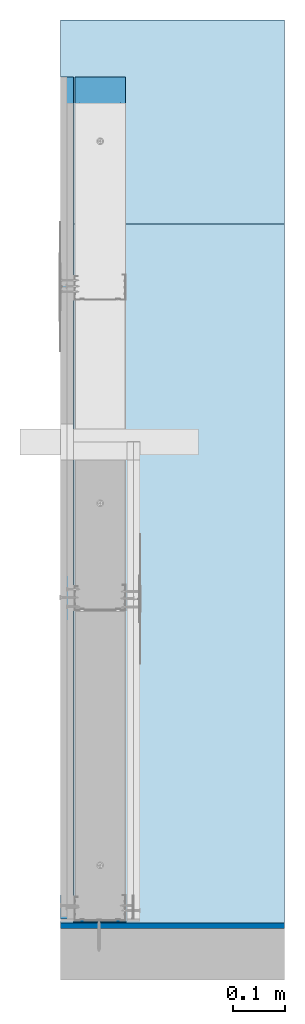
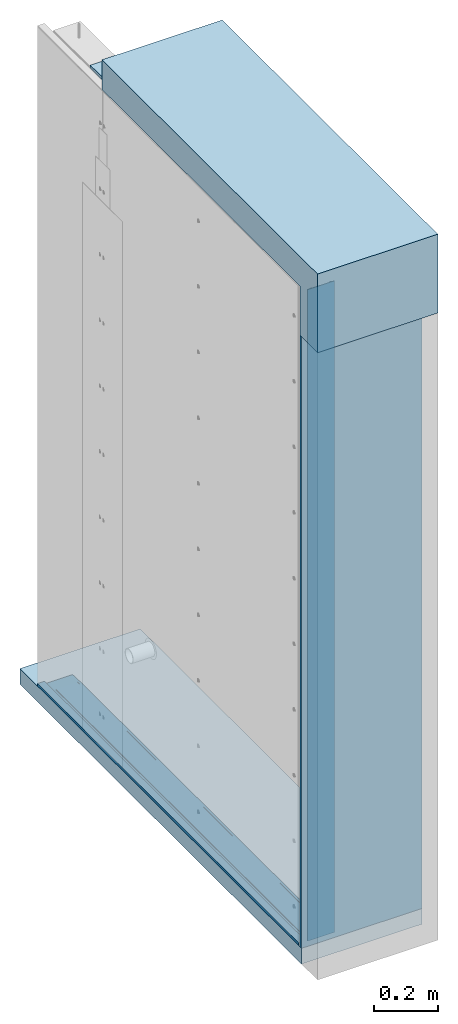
# One storey, part 1 of 92: 4 walls, 3 slabs.
"""IFC2X3 building model written with IfcOpenShell, lengths in millimetres."""

from ifc_helpers import new_model, si_unit, frame, origin_with_axes, place, context, subcontext, project, spatial, faceted_brep, material, type_object, element, save


model = new_model("IFC2X3")

# Units and contexts
model_context = context("Model", 3, world=origin_with_axes())
body_context = subcontext(model_context, "Body", "Model", "MODEL_VIEW")
ifc_project = project(units=[si_unit("LENGTHUNIT", "METRE", prefix="MILLI"), si_unit("AREAUNIT", "SQUARE_METRE"), si_unit("VOLUMEUNIT", "CUBIC_METRE")], contexts=[model_context])

# Site, building, storey
site_placement = place(None, origin_with_axes())
site = spatial("IfcSite", under=ifc_project, at=site_placement, Name="Default Site", CompositionType="ELEMENT")
building_placement = place(site_placement, origin_with_axes())
building = spatial("IfcBuilding", under=site, at=building_placement, Name="Default Building", CompositionType="ELEMENT")
storey_placement = place(building_placement, origin_with_axes())
storey = spatial("IfcBuildingStorey", under=building, at=storey_placement, Name="Default Building Storey", CompositionType="ELEMENT", Elevation=0.0)

# Slabs
ifc_material_1 = material(Name="Concrete_02_1K")
slab_type_1 = type_object("IfcSlabType", Name="Strop#1", PredefinedType="FLOOR")
slab_1_placement = place(storey_placement, frame((30.000000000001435, 1668.0154754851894, 2585.00999910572), z_axis=(0.0, 0.0, 1.0), x_axis=(4.0245584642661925e-16, 1.0, 0.0)))
element("IfcSlab", 1, at=slab_1_placement, inside=storey, type_object=slab_type_1, material=ifc_material_1, Name="Strop", context=body_context, shape_type="Brep", body=[
    faceted_brep([(-322.999983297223, 29.99999999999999, -9.999999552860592), (-322.999983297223, 29.99999999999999, 103.00000000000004), (-322.9999832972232, -403.0000000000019, 103.00000000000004), (-322.9999832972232, -403.0000000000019, 3.0000004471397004), (-322.999983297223, 5.003829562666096, 3.0000004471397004), (-322.999983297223, 5.003829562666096, -9.999999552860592), (-1558.0154763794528, 29.999999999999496, -9.999999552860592), (-1558.0154763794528, 29.999999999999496, -196.9999991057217), (-1568.0154759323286, 29.999999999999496, -196.9999991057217), (-1668.0154754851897, 29.99999999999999, -196.99999910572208), (-1668.0154754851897, 29.99999999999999, 103.00000000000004), (-1668.0154754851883, -403.0000000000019, 103.00000000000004), (-1668.0154754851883, -403.0000000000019, -196.99999910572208), (-1568.015475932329, -403.0000000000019, -196.99999910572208), (-1568.015475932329, -403.0000000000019, 3.0000004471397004), (-1568.0154759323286, 5.003829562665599, -196.9999991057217), (-1568.0154759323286, 5.003829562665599, 3.0000004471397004), (-1558.0154763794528, 5.003829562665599, -9.999999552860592), (-1558.0154763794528, 5.003829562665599, -196.9999991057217)], [[[0, 1, 2, 3, 4, 5]], [[1, 0, 6, 7, 8, 9, 10]], [[1, 10, 11, 2]], [[2, 11, 12, 13, 14, 3]], [[10, 9, 12, 11]], [[15, 13, 12, 9, 8]], [[16, 14, 13, 15]], [[14, 16, 4, 3]], [[5, 17, 6, 0]], [[4, 16, 15, 18, 17, 5]], [[8, 7, 18, 15]], [[6, 17, 18, 7]]]),
])
ifc_material_2 = material(Name="M04_Stone_Frost")
slab_type_2 = type_object("IfcSlabType", Name="Strop#3", PredefinedType="FLOOR")
slab_2_placement = place(storey_placement, frame((30.000000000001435, 1668.0154754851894, 2575.00999955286), z_axis=(0.0, 0.0, 1.0), x_axis=(4.0245584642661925e-16, 1.0, 0.0)))
element("IfcSlab", 2, at=slab_2_placement, inside=storey, type_object=slab_type_2, material=ifc_material_2, Name="Strop", context=body_context, shape_type="Brep", body=[
    faceted_brep([(-205.99998329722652, 5.00382956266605, 3.0000004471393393), (-205.99998329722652, 5.00382956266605, 12.99999999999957), (-205.9999832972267, -403.00000000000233, 12.99999999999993), (-205.9999832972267, -403.00000000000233, 3.0000004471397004), (-839.0154759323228, 5.003829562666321, 12.999999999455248), (-839.015475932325, -403.0000000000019, 12.99999999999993), (-1558.0154763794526, 5.00382956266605, 12.99999999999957), (-1558.0154763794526, 5.00382956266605, 3.0000004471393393), (-1558.0154763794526, 5.00382956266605, -186.99999955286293), (-1568.0154759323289, 5.00382956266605, -186.99999955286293), (-1568.0154759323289, 5.00382956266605, 12.99999999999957), (-1558.0154763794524, -403.0000000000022, 3.0000004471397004), (-1558.0154763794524, -403.0000000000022, 12.99999999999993), (-1568.0154759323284, -403.0000000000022, -186.99999955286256), (-1568.0154759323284, -403.0000000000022, 12.99999999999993), (-1558.0154763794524, -403.0000000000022, -186.99999955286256)], [[[0, 1, 2, 3]], [[1, 4, 5, 2]], [[6, 4, 1, 0, 7, 8, 9, 10]], [[11, 7, 0, 3]], [[5, 4, 6, 12]], [[10, 9, 13, 14]], [[12, 6, 10, 14]], [[8, 15, 13, 9]], [[7, 11, 15, 8]], [[2, 5, 12, 14, 13, 15, 11, 3]]]),
])
slab_type_3 = type_object("IfcSlabType", Name="Beton#1", PredefinedType="FLOOR")
slab_3_placement = place(storey_placement, frame((30.000000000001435, 1746.1320802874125, 6.999999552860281), z_axis=(0.0, 0.0, 1.0), x_axis=(4.0245584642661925e-16, 1.0, 0.0)))
element("IfcSlab", 3, at=slab_3_placement, inside=storey, type_object=slab_type_3, material=ifc_material_1, Name="Beton", context=body_context, shape_type="Brep", body=[
    faceted_brep([(110.0000167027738, 29.99999999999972, -6.999999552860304), (110.0000167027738, 29.99999999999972, 52.999592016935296), (110.00001670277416, -403.0000000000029, 52.999592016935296), (110.00001670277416, -403.0000000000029, -6.999999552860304), (-1646.1320807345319, 29.99999999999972, 52.999592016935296), (-1646.1320807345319, 29.99999999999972, -6.999999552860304), (-1646.1320807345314, -403.0000000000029, -6.999999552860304), (-1646.1320807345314, -403.0000000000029, 52.999592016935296)], [[[0, 1, 2, 3]], [[4, 5, 6, 7]], [[1, 0, 5, 4]], [[2, 1, 4, 7]], [[3, 2, 7, 6]], [[0, 3, 6, 5]]]),
])

# Walls
ifc_material_3 = material(Name="Undefined1")
wall_type_1 = type_object("IfcWallType", Name="Taśma uszczelniająca piankowa RIGIPS#3", PredefinedType="NOTDEFINED")
wall_1_placement = place(storey_placement, frame((126.45000191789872, 115.01549174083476, 2138.834488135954), z_axis=(0.0, 0.0, 1.0), x_axis=(4.0245584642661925e-16, 1.0, 0.0)))
element("IfcWall", 4, at=wall_1_placement, inside=storey, type_object=wall_type_1, material=ifc_material_3, Name="Taśma uszczelniająca piankowa RIGIPS", context=body_context, shape_type="Brep", body=[
    faceted_brep([(9.023892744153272e-14, 96.64698308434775, 411.3159919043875), (9.023892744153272e-14, 98.88917235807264, 411.3159919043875), (-2.9999999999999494, 98.89721322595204, 411.3159919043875), (-3.0000000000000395, -3.6095570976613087e-13, 411.3159919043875), (-2.200000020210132, 0.0, 411.3159919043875), (0.0, 0.0, 411.3159919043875), (0.024471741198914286, 9.947401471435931, 411.3159919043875), (0.054496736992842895, 10.019888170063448, 411.3159919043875), (0.09549150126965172, 10.086786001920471, 411.3159919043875), (0.14644660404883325, 10.146446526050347, 411.3159919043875), (1.6535533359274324, 11.653553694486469, 411.3159919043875), (1.7045085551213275, 11.713214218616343, 411.3159919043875), (1.7455032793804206, 11.780111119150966, 411.3159919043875), (1.77552830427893, 11.852598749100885, 411.3159919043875), (1.7938441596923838, 11.928889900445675, 411.3159919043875), (1.7999999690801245, 12.007107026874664, 411.3159919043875), (1.7999999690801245, 17.592893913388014, 411.3159919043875), (1.7938441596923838, 17.671110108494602, 411.3159919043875), (1.77552830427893, 17.747402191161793, 411.3159919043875), (1.7455032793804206, 17.81988888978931, 411.3159919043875), (1.7045085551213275, 17.886785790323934, 411.3159919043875), (1.6535533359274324, 17.94644631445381, 411.3159919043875), (0.14644660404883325, 19.45355348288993, 411.3159919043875), (0.09549150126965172, 19.513214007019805, 411.3159919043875), (0.054496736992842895, 19.580110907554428, 411.3159919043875), (0.024471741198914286, 19.652597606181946, 411.3159919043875), (0.006155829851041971, 19.728889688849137, 411.3159919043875), (0.0, 19.807105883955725, 411.3159919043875), (0.0, 79.0901092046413, 411.3159919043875), (0.006155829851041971, 79.16832539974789, 411.3159919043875), (0.024471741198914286, 79.24461561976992, 411.3159919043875), (0.054496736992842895, 79.31710231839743, 411.3159919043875), (0.09549150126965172, 79.38400108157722, 411.3159919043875), (0.14644660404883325, 79.44366160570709, 411.3159919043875), (1.6535533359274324, 80.95076877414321, 411.3159919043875), (1.7045085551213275, 81.0104292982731, 411.3159919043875), (1.7455032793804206, 81.07732806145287, 411.3159919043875), (1.77552830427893, 81.14981476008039, 411.3159919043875), (1.7938441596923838, 81.22610498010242, 411.3159919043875), (1.7999999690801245, 81.30432117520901, 411.3159919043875), (1.7999999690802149, 86.8901071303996, 411.3159919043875), (1.793844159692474, 86.96832705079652, 411.3159919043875), (1.7755283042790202, 87.04461727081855, 411.3159919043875), (1.745503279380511, 87.11710396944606, 411.3159919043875), (1.7045085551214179, 87.18400273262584, 411.3159919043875), (1.6535533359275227, 87.24366325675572, 411.3159919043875), (1.3729192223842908, 87.52429675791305, 411.3159919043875), (0.14644660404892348, 88.75076669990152, 411.3159919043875), (0.09549150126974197, 88.81043094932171, 411.3159919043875), (0.054496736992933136, 88.8773297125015, 411.3159919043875), (0.024471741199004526, 88.94981641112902, 411.3159919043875), (0.0061558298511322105, 89.02610290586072, 411.3159919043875), (9.023892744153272e-14, 89.10431910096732, 411.3159919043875), (9.023892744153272e-14, 96.64698308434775, -2068.8435469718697), (9.023892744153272e-14, 98.88917235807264, -2068.8435469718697), (-2.9999999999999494, 98.89721322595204, -2068.8435469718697), (-3.0000000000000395, -3.6095570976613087e-13, -2068.8435469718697), (-3.0000000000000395, -3.6095570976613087e-13, 0.0), (-2.200000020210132, 0.0, -2068.8435469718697), (0.0, 0.0, -2068.8435469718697), (0.024471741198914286, 9.947401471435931, -2068.8435469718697), (0.054496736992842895, 10.019888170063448, -2068.8435469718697), (0.09549150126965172, 10.086786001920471, -2068.8435469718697), (0.14644660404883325, 10.146446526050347, -2068.8435469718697), (1.6535533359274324, 11.653553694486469, -2068.8435469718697), (1.7045085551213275, 11.713214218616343, -2068.8435469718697), (1.7455032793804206, 11.780111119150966, -2068.8435469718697), (1.77552830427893, 11.852598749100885, -2068.8435469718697), (1.7938441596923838, 11.928889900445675, -2068.8435469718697), (1.7999999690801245, 12.007107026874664, -2068.8435469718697), (1.7999999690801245, 17.592893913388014, -2068.8435469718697), (1.7938441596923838, 17.671110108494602, -2068.8435469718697), (1.77552830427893, 17.747402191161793, -2068.8435469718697), (1.7455032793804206, 17.81988888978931, -2068.8435469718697), (1.7045085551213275, 17.886785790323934, -2068.8435469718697), (1.6535533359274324, 17.94644631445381, -2068.8435469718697), (0.14644660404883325, 19.45355348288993, -2068.8435469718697), (0.09549150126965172, 19.513214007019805, -2068.8435469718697), (0.054496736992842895, 19.580110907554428, -2068.8435469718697), (0.024471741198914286, 19.652597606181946, -2068.8435469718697), (0.006155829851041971, 19.728889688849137, -2068.8435469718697), (0.0, 19.807105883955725, -2068.8435469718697), (0.0, 79.0901092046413, -2068.8435469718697), (0.006155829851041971, 79.16832539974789, -2068.8435469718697), (0.024471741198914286, 79.24461561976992, -2068.8435469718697), (0.054496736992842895, 79.31710231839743, -2068.8435469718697), (0.09549150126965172, 79.38400108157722, -2068.8435469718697), (0.14644660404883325, 79.44366160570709, -2068.8435469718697), (1.6535533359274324, 80.95076877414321, -2068.8435469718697), (1.7045085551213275, 81.0104292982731, -2068.8435469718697), (1.7455032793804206, 81.07732806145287, -2068.8435469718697), (1.77552830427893, 81.14981476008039, -2068.8435469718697), (1.7938441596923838, 81.22610498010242, -2068.8435469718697), (1.7999999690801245, 81.30432117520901, -2068.8435469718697), (1.7999999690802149, 86.8901071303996, -2068.8435469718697), (1.793844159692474, 86.96832705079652, -2068.8435469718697), (1.7755283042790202, 87.04461727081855, -2068.8435469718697), (1.745503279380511, 87.11710396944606, -2068.8435469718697), (1.7045085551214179, 87.18400273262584, -2068.8435469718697), (1.6535533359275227, 87.24366325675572, -2068.8435469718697), (1.3729192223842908, 87.52429675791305, -2068.8435469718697), (0.14644660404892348, 88.75076669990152, -2068.8435469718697), (0.09549150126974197, 88.81043094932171, -2068.8435469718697), (0.054496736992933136, 88.8773297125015, -2068.8435469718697), (0.024471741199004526, 88.94981641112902, -2068.8435469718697), (0.0061558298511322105, 89.02610290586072, -2068.8435469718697), (9.023892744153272e-14, 89.10431910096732, -2068.8435469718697)], [[[0, 1, 2, 3, 4, 5, 6, 7, 8, 9, 10, 11, 12, 13, 14, 15, 16, 17, 18, 19, 20, 21, 22, 23, 24, 25, 26, 27, 28, 29, 30, 31, 32, 33, 34, 35, 36, 37, 38, 39, 40, 41, 42, 43, 44, 45, 46, 47, 48, 49, 50, 51, 52]], [[0, 53, 54, 1]], [[1, 54, 55, 2]], [[2, 55, 56, 57, 3]], [[57, 56, 58, 4, 3]], [[4, 58, 59, 5]], [[5, 59, 60, 6]], [[6, 60, 61, 7]], [[7, 61, 62, 8]], [[8, 62, 63, 9]], [[9, 63, 64, 10]], [[10, 64, 65, 11]], [[11, 65, 66, 12]], [[12, 66, 67, 13]], [[13, 67, 68, 14]], [[14, 68, 69, 15]], [[15, 69, 70, 16]], [[16, 70, 71, 17]], [[17, 71, 72, 18]], [[18, 72, 73, 19]], [[19, 73, 74, 20]], [[20, 74, 75, 21]], [[21, 75, 76, 22]], [[22, 76, 77, 23]], [[23, 77, 78, 24]], [[24, 78, 79, 25]], [[25, 79, 80, 26]], [[26, 80, 81, 27]], [[27, 81, 82, 28]], [[28, 82, 83, 29]], [[29, 83, 84, 30]], [[30, 84, 85, 31]], [[31, 85, 86, 32]], [[32, 86, 87, 33]], [[33, 87, 88, 34]], [[34, 88, 89, 35]], [[35, 89, 90, 36]], [[36, 90, 91, 37]], [[37, 91, 92, 38]], [[38, 92, 93, 39]], [[39, 93, 94, 40]], [[40, 94, 95, 41]], [[41, 95, 96, 42]], [[42, 96, 97, 43]], [[43, 97, 98, 44]], [[44, 98, 99, 45]], [[45, 99, 100, 46]], [[46, 100, 101, 47]], [[47, 101, 102, 48]], [[48, 102, 103, 49]], [[49, 103, 104, 50]], [[50, 104, 105, 51]], [[51, 105, 106, 52]], [[52, 106, 53, 0]], [[54, 53, 106, 105, 104, 103, 102, 101, 100, 99, 98, 97, 96, 95, 94, 93, 92, 91, 90, 89, 88, 87, 86, 85, 84, 83, 82, 81, 80, 79, 78, 77, 76, 75, 74, 73, 72, 71, 70, 69, 68, 67, 66, 65, 64, 63, 62, 61, 60, 59, 58, 56, 55]]]),
])
ifc_material_4 = material(Name="Undefined5")
wall_type_2 = type_object("IfcWallType", Name="Masa szpachlowa konstrukcyjna RIGIPS#7", PredefinedType="NOTDEFINED")
wall_2_placement = place(storey_placement, frame((24.646170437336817, 1928.2430455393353, 59.999591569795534), z_axis=(0.0, 0.0, 1.0), x_axis=(4.0245584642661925e-16, 1.0, 0.0)))
element("IfcWall", 5, at=wall_2_placement, inside=storey, type_object=wall_type_2, material=ifc_material_4, Name="Masa szpachlowa konstrukcyjna RIGIPS", context=body_context, shape_type="Brep", body=[
    faceted_brep([(-182.11096525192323, 24.64617043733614, -5.428435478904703e-14), (-182.11096525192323, -0.3499999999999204, -5.428435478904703e-14), (-1810.2386538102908, -0.3499999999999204, -5.428435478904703e-14), (-1810.2386538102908, 24.64617043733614, -5.428435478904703e-14), (-182.11096525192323, -0.3499999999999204, 10.00439262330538), (-1810.2386538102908, -0.3499999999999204, 10.00439262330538), (-182.11096525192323, 24.64617043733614, 10.00439262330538), (-1810.2386538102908, 24.64617043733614, 10.00439262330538)], [[[0, 1, 2, 3]], [[1, 4, 5, 2]], [[4, 6, 7, 5]], [[6, 0, 3, 7]], [[7, 3, 2, 5]], [[0, 6, 4, 1]]]),
])
wall_type_3 = type_object("IfcWallType", Name="Ściana#3", PredefinedType="NOTDEFINED")
wall_3_placement = place(storey_placement, frame((30.00000000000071, 112.99999955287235, 2594.0099832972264), z_axis=(-4.0245584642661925e-16, -1.0, 8.326672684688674e-17), x_axis=(3.3511181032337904e-32, 8.326672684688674e-17, 1.0)))
element("IfcWall", 6, at=wall_3_placement, inside=storey, type_object=wall_type_3, material=ifc_material_2, Name="Ściana", context=body_context, shape_type="Brep", body=[
    faceted_brep([(-205.99998329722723, 29.999999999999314, 3.0000004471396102), (-205.99998329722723, 29.999999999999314, 12.999999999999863), (-205.99998329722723, -403.00000000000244, 12.999999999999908), (-205.99998329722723, -403.00000000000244, 3.0000004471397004), (-2534.0103917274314, 29.999999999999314, 12.999999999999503), (-2534.0103917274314, 29.999999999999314, 3.000000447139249), (-2534.0103917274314, -403.00000000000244, 3.0000004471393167), (-2534.0103917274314, -403.00000000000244, 12.999999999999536)], [[[0, 1, 2, 3]], [[4, 5, 6, 7]], [[1, 0, 5, 4]], [[2, 1, 4, 7]], [[3, 2, 7, 6]], [[0, 3, 6, 5]]]),
])
wall_type_4 = type_object("IfcWallType", Name="Taśma uszczelniająca piankowa RIGIPS", PredefinedType="NOTDEFINED")
wall_4_placement = place(storey_placement, frame((56.250000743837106, -121.90854218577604, 59.98654854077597), z_axis=(0.0, 0.0, 1.0), x_axis=(4.0245584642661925e-16, 1.0, 0.0)))
element("IfcWall", 7, at=wall_4_placement, inside=storey, type_object=wall_type_4, material=ifc_material_3, Name="Taśma uszczelniająca piankowa RIGIPS", context=body_context, shape_type="Brep", body=[
    faceted_brep([(1808.0405616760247, -69.32486698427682, 2.9984184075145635), (240.02513527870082, -69.32486698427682, 2.9984184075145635), (240.02513527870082, -69.32486698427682, -2.165734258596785e-12), (1868.0405616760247, -69.32486698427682, -2.165734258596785e-12), (240.02513527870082, 27.85000146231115, 0.0017836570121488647), (1868.0405616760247, 27.850001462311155, 0.0017836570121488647), (240.02513527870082, 27.85000146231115, 3.001783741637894), (1808.0405616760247, 27.85000146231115, 3.001783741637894), (239.9129339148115, -59.248374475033, 4.801782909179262), (239.91293391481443, 12.210165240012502, 4.801782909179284), (239.91293391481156, 17.748374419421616, 4.801782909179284), (239.91293391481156, 18.33021074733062, 4.615089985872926), (239.91293391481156, 18.37956153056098, 4.577414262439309), (239.912933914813, 18.426479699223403, 4.536748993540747), (239.91293391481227, 18.470782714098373, 4.493250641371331), (239.91293391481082, 18.512301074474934, 4.447086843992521), (239.91293391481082, 18.55087645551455, 4.398434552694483), (239.91293391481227, 18.58635612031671, 4.347481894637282), (239.91293391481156, 18.618605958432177, 4.294426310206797), (239.91293391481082, 18.64750117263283, 4.239472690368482), (239.912933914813, 18.976271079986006, 3.564094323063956), (239.91293391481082, 19.005166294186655, 3.5091407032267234), (239.91293391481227, 19.037416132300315, 3.4560851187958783), (239.91293391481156, 19.0728957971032, 3.405132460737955), (239.912933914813, 19.111471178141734, 3.356480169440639), (239.91293391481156, 19.15298953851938, 3.310316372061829), (239.91293391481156, 19.19729255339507, 3.266818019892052), (239.91293391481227, 19.244210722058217, 3.226152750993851), (239.912933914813, 19.293561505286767, 3.1884770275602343), (239.912933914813, 19.345156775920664, 3.153936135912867), (239.91293391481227, 19.39879350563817, 3.1226641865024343), (239.912933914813, 19.454268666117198, 3.0947822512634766), (239.9129339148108, -60.95426872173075, 3.094782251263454), (239.9129339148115, -60.89879356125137, 3.1226641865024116), (239.91293391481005, -60.84515683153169, 3.1539361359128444), (239.9129339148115, -60.79356156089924, 3.1884770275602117), (239.91293391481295, -60.74421077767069, 3.2261527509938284), (239.91293391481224, -60.697292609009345, 3.266818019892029), (239.9129339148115, -60.65298959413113, 3.3103163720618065), (239.9129339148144, -60.611471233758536, 3.3564801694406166), (239.9129339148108, -60.57289585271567, 3.4051324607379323), (239.91293391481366, -60.537416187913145, 3.4560851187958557), (239.91293391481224, -60.505166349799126, 3.509140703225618), (239.9129339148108, -60.4762711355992, 3.5640943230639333), (239.91293391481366, -60.14750122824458, 4.239472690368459), (239.91293391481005, -60.1186060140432, 4.294426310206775), (239.91293391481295, -60.08635617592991, 4.347481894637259), (239.9129339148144, -60.0508765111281, 4.39843455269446), (239.91293391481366, -60.0123011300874, 4.447086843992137), (239.9129339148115, -59.970782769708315, 4.493250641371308), (239.9129339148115, -59.926479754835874, 4.536748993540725), (1818.0406768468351, -59.2483744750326, 4.801782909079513), (1818.0406768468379, 12.210165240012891, 4.801782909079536), (1818.0406768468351, -59.92647975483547, 4.536748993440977), (1818.0406768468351, -59.97078276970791, 4.49325064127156), (1818.0406768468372, -60.012301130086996, 4.447086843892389), (1818.0406768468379, -60.0508765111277, 4.398434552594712), (1818.0406768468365, -60.0863561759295, 4.347481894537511), (1818.0406768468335, -60.1186060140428, 4.294426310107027), (1818.0406768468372, -60.147501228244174, 4.239472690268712), (1818.0406768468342, -60.47627113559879, 3.5640943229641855), (1818.0406768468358, -60.50516634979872, 3.5091407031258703), (1818.0406768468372, -60.53741618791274, 3.456085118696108), (1818.0406768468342, -60.57289585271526, 3.4051324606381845), (1818.0406768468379, -60.61147123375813, 3.356480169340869), (1818.0406768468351, -60.65298959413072, 3.3103163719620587), (1818.0406768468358, -60.69729260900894, 3.2668180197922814), (1818.0406768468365, -60.74421077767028, 3.2261527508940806), (1818.0406768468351, -60.79356156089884, 3.188477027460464), (1818.0406768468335, -60.845156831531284, 3.1539361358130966), (1818.0406768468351, -60.89879356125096, 3.122664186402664), (1818.0406768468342, -60.954268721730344, 3.094782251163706), (1818.0406768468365, 19.45426866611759, 3.094782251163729), (1818.0406768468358, 19.39879350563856, 3.1226641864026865), (1818.0406768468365, 19.345156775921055, 3.1539361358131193), (1818.0406768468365, 19.29356150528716, 3.1884770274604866), (1818.0406768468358, 19.244210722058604, 3.2261527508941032), (1818.0406768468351, 19.19729255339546, 3.266818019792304), (1818.0406768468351, 19.152989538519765, 3.3103163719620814), (1818.0406768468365, 19.111471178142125, 3.3564801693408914), (1818.0406768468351, 19.072895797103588, 3.405132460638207), (1818.0406768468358, 19.037416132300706, 3.4560851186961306), (1818.0406768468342, 19.005166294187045, 3.5091407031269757), (1818.0406768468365, 18.976271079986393, 3.564094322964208), (1818.0406768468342, 18.647501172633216, 4.239472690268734), (1818.0406768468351, 18.618605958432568, 4.294426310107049), (1818.0406768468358, 18.586356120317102, 4.347481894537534), (1818.0406768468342, 18.550876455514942, 4.398434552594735), (1818.0406768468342, 18.51230107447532, 4.447086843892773), (1818.0406768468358, 18.470782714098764, 4.493250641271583), (1818.0406768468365, 18.426479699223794, 4.536748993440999), (1818.0406768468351, 18.379561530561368, 4.577414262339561), (1818.0406768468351, 18.330210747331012, 4.615089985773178), (1818.0406768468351, 17.748374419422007, 4.801782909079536)], [[[0, 1, 2, 3]], [[3, 2, 4, 5]], [[5, 4, 6, 7]], [[7, 0, 3, 5]], [[8, 9, 10, 11, 12, 13, 14, 15, 16, 17, 18, 19, 20, 21, 22, 23, 24, 25, 26, 27, 28, 29, 30, 31, 32, 33, 34, 35, 36, 37, 38, 39, 40, 41, 42, 43, 44, 45, 46, 47, 48, 49, 50]], [[8, 51, 52, 9]], [[50, 53, 51, 8]], [[49, 54, 53, 50]], [[48, 55, 54, 49]], [[47, 56, 55, 48]], [[46, 57, 56, 47]], [[45, 58, 57, 46]], [[44, 59, 58, 45]], [[43, 60, 59, 44]], [[42, 61, 60, 43]], [[41, 62, 61, 42]], [[40, 63, 62, 41]], [[39, 64, 63, 40]], [[38, 65, 64, 39]], [[37, 66, 65, 38]], [[36, 67, 66, 37]], [[35, 68, 67, 36]], [[34, 69, 68, 35]], [[33, 70, 69, 34]], [[32, 71, 70, 33]], [[71, 32, 31, 72]], [[30, 73, 72, 31]], [[29, 74, 73, 30]], [[28, 75, 74, 29]], [[27, 76, 75, 28]], [[26, 77, 76, 27]], [[25, 78, 77, 26]], [[24, 79, 78, 25]], [[23, 80, 79, 24]], [[22, 81, 80, 23]], [[21, 82, 81, 22]], [[20, 83, 82, 21]], [[19, 84, 83, 20]], [[18, 85, 84, 19]], [[17, 86, 85, 18]], [[16, 87, 86, 17]], [[15, 88, 87, 16]], [[14, 89, 88, 15]], [[13, 90, 89, 14]], [[12, 91, 90, 13]], [[11, 92, 91, 12]], [[10, 93, 92, 11]], [[9, 52, 93, 10]], [[52, 51, 53, 54, 55, 56, 57, 58, 59, 60, 61, 62, 63, 64, 65, 66, 67, 68, 69, 70, 71, 72, 73, 74, 75, 76, 77, 78, 79, 80, 81, 82, 83, 84, 85, 86, 87, 88, 89, 90, 91, 92, 93]], [[0, 7, 6, 1]], [[6, 4, 2, 1]]]),
])

save(model, "model.ifc")
